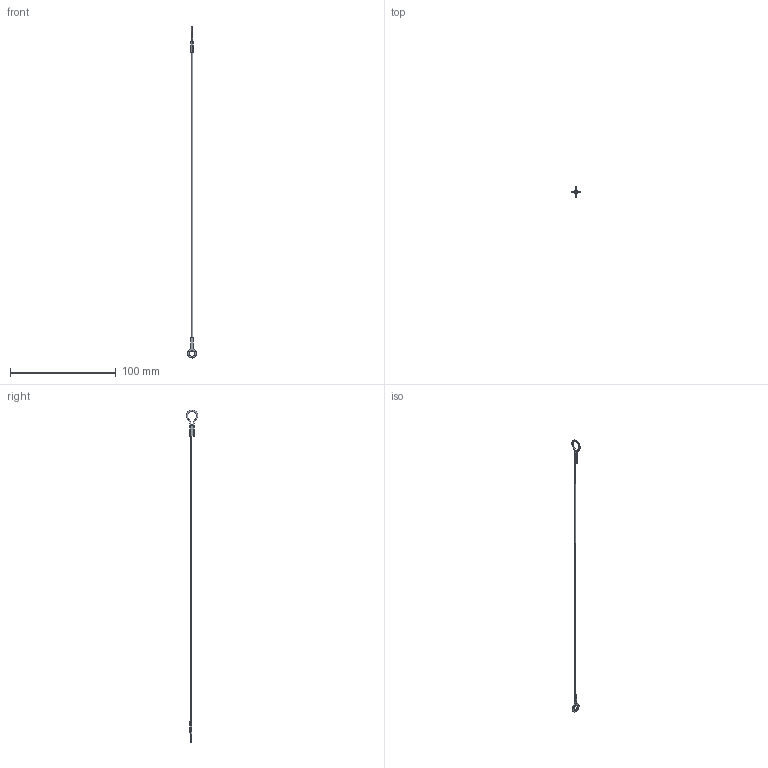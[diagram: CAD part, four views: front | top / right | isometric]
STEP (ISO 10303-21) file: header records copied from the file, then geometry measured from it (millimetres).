
FILE_DESCRIPTION (( 'STEP AP203' ), '1' );
FILE_NAME ('LA1075.I04-304N1.step', '2026-03-23T16:43:00', ( '' ), ( '' ), 'SwSTEP 2.0', 'SolidWorks 2019', '' );
FILE_SCHEMA (( 'CONFIG_CONTROL_DESIGN' ));
Length unit declared in the file: millimetre
Products named in the file (1): LA1075.I04-304N1
Bounding box: 8.36 x 10.76 x 314.38 mm (x, y, z)
Volume: 492.1 mm3; surface area: 1457.5 mm2
Topology: 1 solids, 1 shells, 30 faces, 68 edges, 42 vertices
Faces by surface type: plane 12, cylinder 10, torus 8
Entity records: 935 total; most frequent: DIRECTION 168, CARTESIAN_POINT 141, ORIENTED_EDGE 136, AXIS2_PLACEMENT_3D 69, EDGE_CURVE 68, VERTEX_POINT 42, CIRCLE 38, EDGE_LOOP 36
